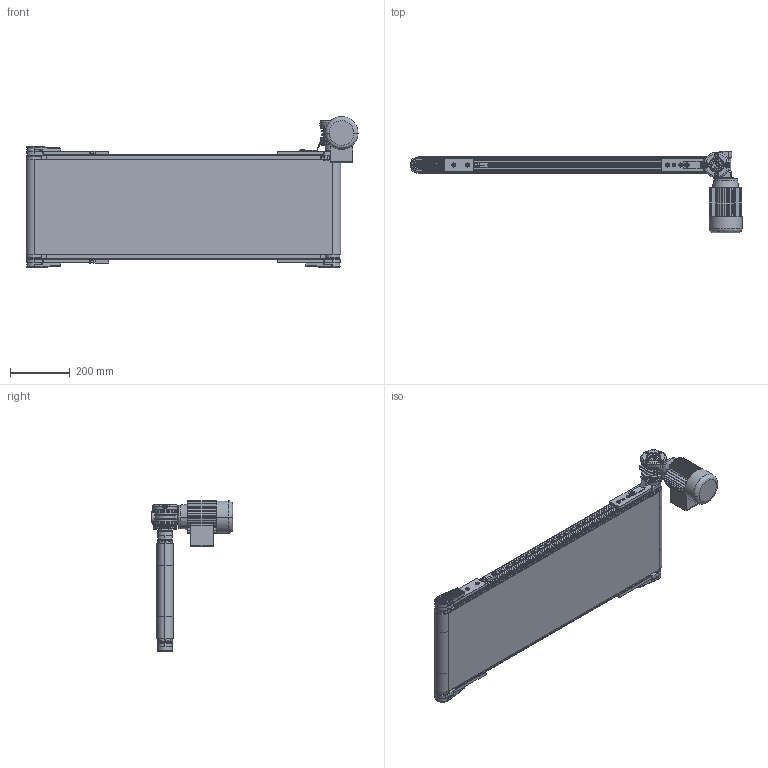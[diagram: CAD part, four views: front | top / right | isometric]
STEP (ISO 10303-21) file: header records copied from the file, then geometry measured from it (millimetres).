
FILE_DESCRIPTION (( 'STEP AP203' ), '1' );
FILE_NAME ('NASTRO_RETTILINEO_TAPPETO.step', '2026-04-27T12:26:10', ( 'Utente Windows' ), ( '' ), 'SwSTEP 2.0', 'SolidWorks 2024', '' );
FILE_SCHEMA (( 'CONFIG_CONTROL_DESIGN' ));
Length unit declared in the file: millimetre
Products named in the file (44): NASTRO_RETTILINEO_TAPPETO; VITI TSEI UNI 5933_M4x12 UNI 5933; VITE_RONDELLA_M8X20; BLOCCO_PERNO_50_RINVIO; 084.811.001; 084.802.062; 084.807.003_084.807.003<A macchina>; RONDELLE FASCIA LARGA UNI 6593_5.4x20 UNI 6593; 084.803.018; 084.802.008; CH03P_DX; BLOCCO_TRAINO_50_STANDARD; 084.303.001; 084.802.061; 084.802.065_Default<A macchina>; 084.301.000 VITI ALUSIC_084.301.003; 084.811.004; CHIAVETTE_A 5x5x40 UNI 6604-69; 084.807.002_084.807.002; VITI TCEI UNI 5931_M4x25 UNI 5931; CHIAVETTE_A 5x5x20 UNI 6604-69; TAPPETO_STANDARD; BLOCCO_BRACCIO_CH03P_VF30P; VITI TSEI UNI 5933 INOX_0412UNI5933A2; 084.302.000 DADI ALUSIC 13x13-1_084.302.007; 084.802.071; VITI TCEI UNI 5931_M6x12 UNI 5931; 084.302.000 DADI ALUSIC 13x13_084.302.004; VITI TE UNI 5739_M6x16 UNI 5739; BLOCCO_RINVIO_50_STANDARD; 084.810.001; 084.802.017_084.802.017; VITI TSEI UNI 5933_M4x10 UNI 5933; 084.808.012; BLOCCO_TRAINO_50_STANDARD_30_DX; LAMIERA_STANDARD; TELAIO_50_STANDARD_Default<A macchina>; RULLO_50_Default<A macchina>; 084.302.000 DADI ALUSIC 13x13-1_084.302.004; VITE_DADO_M5X12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
Assembly tree (83 placements, depth 4):
  NASTRO_RETTILINEO_TAPPETO
    TAPPETO_STANDARD
    TELAIO_50_STANDARD_Default<A macchina>
    LAMIERA_STANDARD
    RULLO_50_Default<A macchina>  x2
    BLOCCO_PERNO_50_30
      084.810.001
      084.811.001
      RONDELLE FASCIA LARGA UNI 6593_5.4x20 UNI 6593
      084.301.000 VITI ALUSIC_084.301.009
      CHIAVETTE_A 5x5x40 UNI 6604-69
      CHIAVETTE_A 5x5x20 UNI 6604-69
      14UNI7435
    BLOCCO_TRAINO_50_STANDARD_30_DX
      084.807.003_084.807.003<A macchina>
      084.802.017_084.802.017
      084.301.000 VITI ALUSIC_084.301.003  x2
      084.302.000 DADI ALUSIC 13x13-1_084.302.004  x2
      BLOCCO_BRACCIO_CH03P_VF30P
        084.808.012
        084.802.062
        084.802.061
        VITI TE UNI 5739_M6x16 UNI 5739  x4
        084.803.018
        VITI TCEI UNI 5931_M6x12 UNI 5931  x4
      084.802.065_Default<A macchina>
      VITI TCEI UNI 5931_M4x25 UNI 5931  x2
    BLOCCO_PERNO_50_RINVIO  x3
      084.811.004
      084.810.001
    BLOCCO_TRAINO_50_STANDARD
      084.807.002_084.807.002
      084.802.017_084.802.017
      084.301.000 VITI ALUSIC_084.301.003  x2
      084.302.000 DADI ALUSIC 13x13-1_084.302.004  x2
      VITI TSEI UNI 5933_M4x12 UNI 5933  x4
      084.802.071
      VITI TSEI UNI 5933 INOX_0412UNI5933A2  x2
    BLOCCO_RINVIO_50_STANDARD  x2
      084.807.002_084.807.002
      084.802.017_084.802.017
      084.802.008
      084.301.000 VITI ALUSIC_084.301.003
      084.302.000 DADI ALUSIC 13x13_084.302.004
      VITI TSEI UNI 5933_M4x10 UNI 5933
      084.802.071
    VITE_RONDELLA_M8X20  x3
      084.303.001
      084.301.000 VITI ALUSIC_084.301.003
    VITE_DADO_M5X12  x6
      084.302.000 DADI ALUSIC 13x13-1_084.302.007
      VITI TSEI UNI 5933_M5x12 UNI 5933
    CH03P_DX
Bounding box: 1112 x 273 x 505 mm (x, y, z)
Volume: 6436763.7 mm3; surface area: 4432270.4 mm2
Topology: 113 solids, 119 shells, 6030 faces, 15585 edges, 9953 vertices
Faces by surface type: plane 2955, cylinder 1663, cone 551, bspline 506, torus 317, sphere 38
Entity records: 131345 total; most frequent: CARTESIAN_POINT 37992, ORIENTED_EDGE 19032, DIRECTION 17507, EDGE_CURVE 9516, VERTEX_POINT 6108, AXIS2_PLACEMENT_3D 6065, VECTOR 5377, LINE 5377
